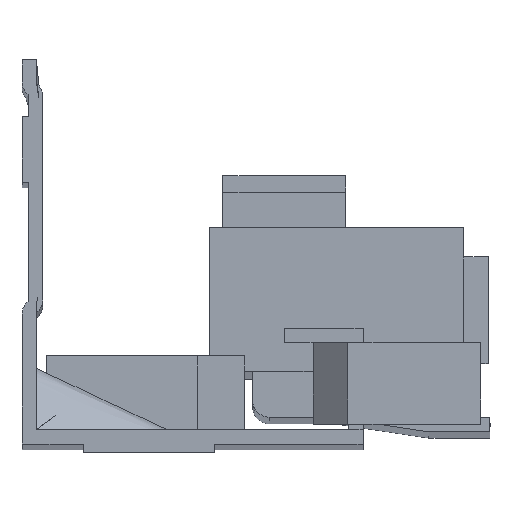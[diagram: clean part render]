
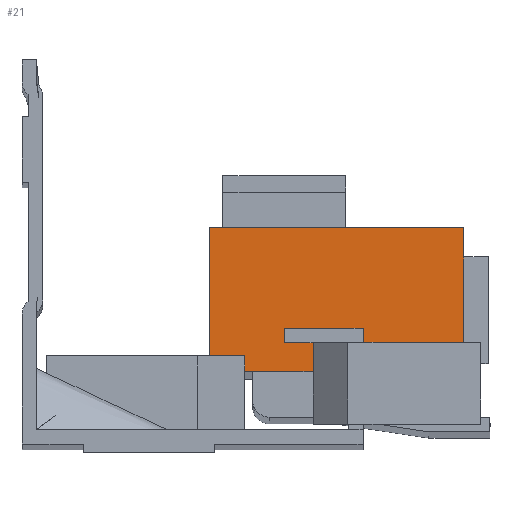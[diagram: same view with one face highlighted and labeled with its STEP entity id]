
A CAD part, front view. The second image highlights one B-rep face of the part: STEP entity #21.
In plain terms, the highlighted planar face has unit normal (0, -1, 0).
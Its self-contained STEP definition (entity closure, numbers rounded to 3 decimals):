
#21 = ADVANCED_FACE ( 'NONE', ( #2291 ), #4106, .F. ) ;
#321 = CARTESIAN_POINT ( 'NONE',  ( 53.9, -20., -9.558 ) ) ;
#322 = DIRECTION ( 'NONE',  ( 1., 0., 0. ) ) ;
#343 = CARTESIAN_POINT ( 'NONE',  ( 53.9, -20., -29.558 ) ) ;
#344 = DIRECTION ( 'NONE',  ( 0., 0., -1. ) ) ;
#379 = CARTESIAN_POINT ( 'NONE',  ( 49.9, -20., -23.558 ) ) ;
#380 = DIRECTION ( 'NONE',  ( 1., 0., 0. ) ) ;
#429 = CARTESIAN_POINT ( 'NONE',  ( 41.6, -20., -35.931 ) ) ;
#430 = DIRECTION ( 'NONE',  ( 0., 0., -1. ) ) ;
#443 = CARTESIAN_POINT ( 'NONE',  ( 49.9, -20., -27.058 ) ) ;
#444 = DIRECTION ( 'NONE',  ( -1., 0., 0. ) ) ;
#445 = CARTESIAN_POINT ( 'NONE',  ( 35.5, -20., -27.058 ) ) ;
#446 = DIRECTION ( 'NONE',  ( 0., 0., -1. ) ) ;
#447 = CARTESIAN_POINT ( 'NONE',  ( 32., -20., -23.608 ) ) ;
#448 = DIRECTION ( 'NONE',  ( -1., 0., 0. ) ) ;
#449 = CARTESIAN_POINT ( 'NONE',  ( 32., -20., -21.831 ) ) ;
#450 = DIRECTION ( 'NONE',  ( 0., 0., 1. ) ) ;
#451 = CARTESIAN_POINT ( 'NONE',  ( 41.6, -20., -21.858 ) ) ;
#452 = DIRECTION ( 'NONE',  ( 1., 0., 0. ) ) ;
#453 = CARTESIAN_POINT ( 'NONE',  ( 22.9, -20., -27.058 ) ) ;
#454 = DIRECTION ( 'NONE',  ( 0., 0., 1. ) ) ;
#455 = CARTESIAN_POINT ( 'NONE',  ( 49.9, -20., -25.181 ) ) ;
#456 = DIRECTION ( 'NONE',  ( -1., 0., 0. ) ) ;
#457 = CARTESIAN_POINT ( 'NONE',  ( 27.15, -20., -27.058 ) ) ;
#458 = DIRECTION ( 'NONE',  ( 0., 0., 1. ) ) ;
#1076 = CARTESIAN_POINT ( 'NONE',  ( 27.15, -20., -25.181 ) ) ;
#1100 = CARTESIAN_POINT ( 'NONE',  ( 22.9, -20., -25.181 ) ) ;
#1117 = CARTESIAN_POINT ( 'NONE',  ( 41.6, -20., -21.858 ) ) ;
#1524 = EDGE_LOOP ( 'NONE', ( #2131, #2130, #2129, #2128, #2127, #2126, #2125, #2124, #2123, #2122, #2121, #2120 ) ) ;
#2120 = ORIENTED_EDGE ( 'NONE', *, *, #3250, .F. ) ;
#2121 = ORIENTED_EDGE ( 'NONE', *, *, #3249, .F. ) ;
#2122 = ORIENTED_EDGE ( 'NONE', *, *, #3248, .F. ) ;
#2123 = ORIENTED_EDGE ( 'NONE', *, *, #3182, .F. ) ;
#2124 = ORIENTED_EDGE ( 'NONE', *, *, #3193, .F. ) ;
#2125 = ORIENTED_EDGE ( 'NONE', *, *, #3211, .T. ) ;
#2126 = ORIENTED_EDGE ( 'NONE', *, *, #3236, .T. ) ;
#2127 = ORIENTED_EDGE ( 'NONE', *, *, #3247, .T. ) ;
#2128 = ORIENTED_EDGE ( 'NONE', *, *, #3246, .T. ) ;
#2129 = ORIENTED_EDGE ( 'NONE', *, *, #3245, .T. ) ;
#2130 = ORIENTED_EDGE ( 'NONE', *, *, #3244, .F. ) ;
#2131 = ORIENTED_EDGE ( 'NONE', *, *, #3243, .F. ) ;
#2291 = FACE_OUTER_BOUND ( 'NONE', #1524, .T. ) ;
#2544 = LINE ( 'NONE', #321, #2545 ) ;
#2545 = VECTOR ( 'NONE', #322, 1000. ) ;
#2566 = LINE ( 'NONE', #343, #2567 ) ;
#2567 = VECTOR ( 'NONE', #344, 1000. ) ;
#2602 = LINE ( 'NONE', #379, #2603 ) ;
#2603 = VECTOR ( 'NONE', #380, 1000. ) ;
#2652 = LINE ( 'NONE', #429, #2653 ) ;
#2653 = VECTOR ( 'NONE', #430, 1000. ) ;
#2666 = LINE ( 'NONE', #443, #2667 ) ;
#2667 = VECTOR ( 'NONE', #444, 1000. ) ;
#2668 = LINE ( 'NONE', #445, #2669 ) ;
#2669 = VECTOR ( 'NONE', #446, 1000. ) ;
#2670 = LINE ( 'NONE', #447, #2671 ) ;
#2671 = VECTOR ( 'NONE', #448, 1000. ) ;
#2672 = LINE ( 'NONE', #449, #2673 ) ;
#2673 = VECTOR ( 'NONE', #450, 1000. ) ;
#2674 = LINE ( 'NONE', #451, #2675 ) ;
#2675 = VECTOR ( 'NONE', #452, 1000. ) ;
#2676 = LINE ( 'NONE', #453, #2677 ) ;
#2677 = VECTOR ( 'NONE', #454, 1000. ) ;
#2678 = LINE ( 'NONE', #455, #2679 ) ;
#2679 = VECTOR ( 'NONE', #456, 1000. ) ;
#2680 = LINE ( 'NONE', #457, #2681 ) ;
#2681 = VECTOR ( 'NONE', #458, 1000. ) ;
#2948 = VERTEX_POINT ( 'NONE', #4902 ) ;
#2949 = VERTEX_POINT ( 'NONE', #4903 ) ;
#3000 = VERTEX_POINT ( 'NONE', #4954 ) ;
#3016 = VERTEX_POINT ( 'NONE', #4970 ) ;
#3017 = VERTEX_POINT ( 'NONE', #4971 ) ;
#3018 = VERTEX_POINT ( 'NONE', #4972 ) ;
#3037 = VERTEX_POINT ( 'NONE', #4991 ) ;
#3055 = VERTEX_POINT ( 'NONE', #5009 ) ;
#3056 = VERTEX_POINT ( 'NONE', #5010 ) ;
#3182 = EDGE_CURVE ( 'NONE', #2949, #3017, #2544, .T. ) ;
#3193 = EDGE_CURVE ( 'NONE', #3017, #3018, #2566, .T. ) ;
#3211 = EDGE_CURVE ( 'NONE', #2948, #3018, #2602, .T. ) ;
#3236 = EDGE_CURVE ( 'NONE', #5273, #2948, #2652, .T. ) ;
#3243 = EDGE_CURVE ( 'NONE', #3000, #3016, #2666, .T. ) ;
#3244 = EDGE_CURVE ( 'NONE', #3056, #3000, #2668, .T. ) ;
#3245 = EDGE_CURVE ( 'NONE', #3056, #3037, #2670, .T. ) ;
#3246 = EDGE_CURVE ( 'NONE', #3037, #3055, #2672, .T. ) ;
#3247 = EDGE_CURVE ( 'NONE', #3055, #5273, #2674, .T. ) ;
#3248 = EDGE_CURVE ( 'NONE', #5252, #2949, #2676, .T. ) ;
#3249 = EDGE_CURVE ( 'NONE', #5225, #5252, #2678, .T. ) ;
#3250 = EDGE_CURVE ( 'NONE', #3016, #5225, #2680, .T. ) ;
#3527 = AXIS2_PLACEMENT_3D ( 'NONE', #4107, #4108, #4109 ) ;
#4106 = PLANE ( 'NONE',  #3527 ) ;
#4107 = CARTESIAN_POINT ( 'NONE',  ( 49.9, -20., -27.058 ) ) ;
#4108 = DIRECTION ( 'NONE',  ( 0., 1., 0. ) ) ;
#4109 = DIRECTION ( 'NONE',  ( 1., 0., 0. ) ) ;
#4902 = CARTESIAN_POINT ( 'NONE',  ( 41.6, -20., -23.558 ) ) ;
#4903 = CARTESIAN_POINT ( 'NONE',  ( 22.9, -20., -9.558 ) ) ;
#4954 = CARTESIAN_POINT ( 'NONE',  ( 35.5, -20., -27.058 ) ) ;
#4970 = CARTESIAN_POINT ( 'NONE',  ( 27.15, -20., -27.058 ) ) ;
#4971 = CARTESIAN_POINT ( 'NONE',  ( 53.9, -20., -9.558 ) ) ;
#4972 = CARTESIAN_POINT ( 'NONE',  ( 53.9, -20., -23.558 ) ) ;
#4991 = CARTESIAN_POINT ( 'NONE',  ( 32., -20., -23.608 ) ) ;
#5009 = CARTESIAN_POINT ( 'NONE',  ( 32., -20., -21.858 ) ) ;
#5010 = CARTESIAN_POINT ( 'NONE',  ( 35.5, -20., -23.608 ) ) ;
#5225 = VERTEX_POINT ( 'NONE', #1076 ) ;
#5252 = VERTEX_POINT ( 'NONE', #1100 ) ;
#5273 = VERTEX_POINT ( 'NONE', #1117 ) ;
